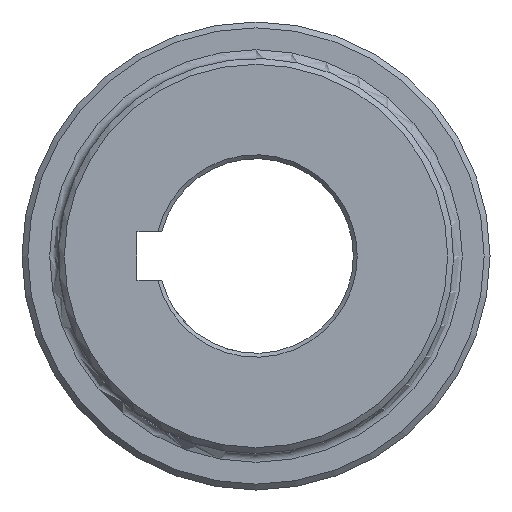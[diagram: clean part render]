
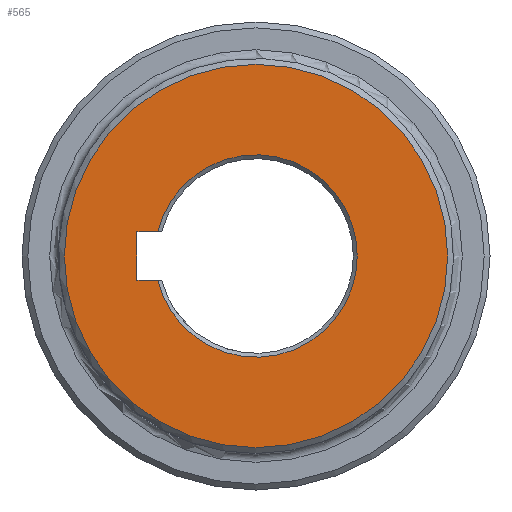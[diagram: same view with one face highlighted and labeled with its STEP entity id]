
A CAD part, left-side view. The second image highlights one B-rep face of the part: STEP entity #565.
In plain terms, the highlighted planar face has unit normal (-1, 0, 0).
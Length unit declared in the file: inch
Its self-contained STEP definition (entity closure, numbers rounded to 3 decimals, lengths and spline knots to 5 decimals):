
#52 = DIRECTION ( 'NONE',  ( 1., 0., 0. ) ) ;
#76 = VERTEX_POINT ( 'NONE', #275 ) ;
#120 = VERTEX_POINT ( 'NONE', #1159 ) ;
#268 = VERTEX_POINT ( 'NONE', #874 ) ;
#271 = CARTESIAN_POINT ( 'NONE',  ( 0., 0., -0.25 ) ) ;
#272 = DIRECTION ( 'NONE',  ( 0., 0., -1. ) ) ;
#275 = CARTESIAN_POINT ( 'NONE',  ( 0., 1.22375, 0.25 ) ) ;
#322 = EDGE_CURVE ( 'NONE', #662, #76, #1647, .T. ) ;
#348 = EDGE_LOOP ( 'NONE', ( #2335 ) ) ;
#401 = DIRECTION ( 'NONE',  ( 0., -1., 0. ) ) ;
#435 = FACE_BOUND ( 'NONE', #669, .T. ) ;
#522 = VECTOR ( 'NONE', #272, 39.37008 ) ;
#565 = ADVANCED_FACE ( 'NONE', ( #2170, #435 ), #1579, .F. ) ;
#576 = CARTESIAN_POINT ( 'NONE',  ( 0., 0., 0. ) ) ;
#586 = CARTESIAN_POINT ( 'NONE',  ( 0., 1.22375, -0.25 ) ) ;
#617 = DIRECTION ( 'NONE',  ( -1., 0., 0. ) ) ;
#637 = DIRECTION ( 'NONE',  ( 0., 1., 0. ) ) ;
#650 = VECTOR ( 'NONE', #637, 39.37008 ) ;
#658 = EDGE_CURVE ( 'NONE', #76, #268, #1937, .T. ) ;
#662 = VERTEX_POINT ( 'NONE', #1019 ) ;
#669 = EDGE_LOOP ( 'NONE', ( #1574, #1482, #1560, #2307 ) ) ;
#776 = DIRECTION ( 'NONE',  ( 0., 0., -1. ) ) ;
#855 = DIRECTION ( 'NONE',  ( 0., 0., -1. ) ) ;
#874 = CARTESIAN_POINT ( 'NONE',  ( 0., 1.22375, -0.25 ) ) ;
#1019 = CARTESIAN_POINT ( 'NONE',  ( 0., 1.00976, 0.25 ) ) ;
#1033 = CARTESIAN_POINT ( 'NONE',  ( 0., 0., 0.25 ) ) ;
#1072 = CIRCLE ( 'NONE', #1598, 1.04025 ) ;
#1159 = CARTESIAN_POINT ( 'NONE',  ( 0., 1.00976, -0.25 ) ) ;
#1213 = VECTOR ( 'NONE', #401, 39.37008 ) ;
#1437 = VERTEX_POINT ( 'NONE', #2345 ) ;
#1482 = ORIENTED_EDGE ( 'NONE', *, *, #1519, .T. ) ;
#1519 = EDGE_CURVE ( 'NONE', #662, #120, #1072, .T. ) ;
#1531 = LINE ( 'NONE', #271, #1213 ) ;
#1560 = ORIENTED_EDGE ( 'NONE', *, *, #2046, .F. ) ;
#1574 = ORIENTED_EDGE ( 'NONE', *, *, #322, .F. ) ;
#1579 = PLANE ( 'NONE',  #1851 ) ;
#1598 = AXIS2_PLACEMENT_3D ( 'NONE', #2297, #52, #776 ) ;
#1647 = LINE ( 'NONE', #1033, #650 ) ;
#1851 = AXIS2_PLACEMENT_3D ( 'NONE', #2571, #1926, #855 ) ;
#1926 = DIRECTION ( 'NONE',  ( 1., 0., 0. ) ) ;
#1937 = LINE ( 'NONE', #586, #522 ) ;
#2007 = CIRCLE ( 'NONE', #2656, 1.97 ) ;
#2046 = EDGE_CURVE ( 'NONE', #268, #120, #1531, .T. ) ;
#2160 = EDGE_CURVE ( 'NONE', #1437, #1437, #2007, .T. ) ;
#2170 = FACE_OUTER_BOUND ( 'NONE', #348, .T. ) ;
#2174 = DIRECTION ( 'NONE',  ( 0., 0., -1. ) ) ;
#2297 = CARTESIAN_POINT ( 'NONE',  ( 0., 0., 0. ) ) ;
#2307 = ORIENTED_EDGE ( 'NONE', *, *, #658, .F. ) ;
#2335 = ORIENTED_EDGE ( 'NONE', *, *, #2160, .T. ) ;
#2345 = CARTESIAN_POINT ( 'NONE',  ( 0., 0., -1.97 ) ) ;
#2571 = CARTESIAN_POINT ( 'NONE',  ( 0., 0., 0. ) ) ;
#2656 = AXIS2_PLACEMENT_3D ( 'NONE', #576, #617, #2174 ) ;
